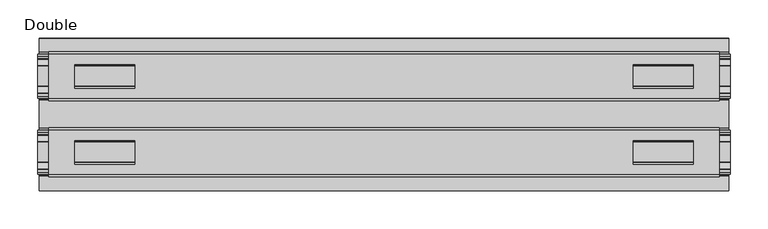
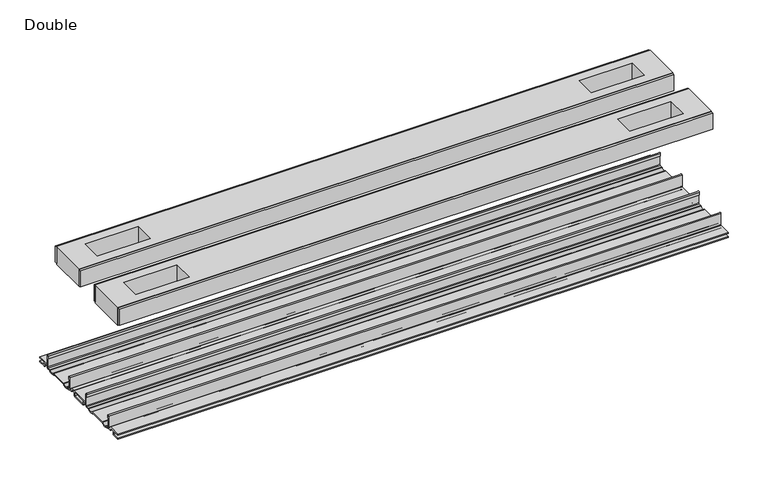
"""IFC4 building model written with IfcOpenShell, lengths in millimetres: proxy geometry, Frame-Teknion-FHCRA-Horizontal_Rail-R2022 : Double."""

from ifc_helpers import new_model, si_unit, point, frame, frame_2d, origin, place, context, project, spatial, polyline, circle_curve, trimmed, segment, composite_curve, outline, extrude, source, transform, mapped, element, save


def double_75f63c43(model_context):
    return source(origin(), model_context, "Body", "SweptSolid", [
        extrude(outline(composite_curve([segment(polyline([(-78.8225461, -7.7516037), (-78.8225461, 9.8607558)]), True, "CONTINUOUS"), segment(trimmed(circle_curve(frame_2d((-77.6033482, 9.8607558)), 1.2191979), [point((-78.8225461, 9.8607558))], [point((-76.3841503, 9.8607558))], False, "CARTESIAN"), True, "CONTINUOUS"), segment(polyline([(-76.3841503, 9.8607558), (-76.3841503, 5.9999563), (-77.6643269, 5.9999563), (-77.6643269, -7.7516037)]), True, "CONTINUOUS"), segment(trimmed(circle_curve(frame_2d((-76.6483061, -7.7516037)), 1.0160208), [point((-77.6643269, -7.7516037))], [point((-76.6548232, -8.7676036))], True, "CARTESIAN"), True, "CONTINUOUS"), segment(polyline([(-76.6548232, -8.7676036), (-72.7118726, -8.7676036), (-71.7985108, -8.968753)]), True, "CONTINUOUS"), segment(trimmed(circle_curve(frame_2d((-67.7735521, -6.1259382)), 4.9276657), [point((-71.7985108, -8.968753))], [point((-63.7485934, -8.968753))], True, "CARTESIAN"), True, "CONTINUOUS"), segment(polyline([(-63.7485934, -8.968753), (-62.8352226, -8.7676036), (-36.7962778, -8.7676036), (-35.8829069, -8.968753)]), True, "CONTINUOUS"), segment(trimmed(circle_curve(frame_2d((-31.8579482, -6.1259382)), 4.9276657), [point((-35.8829069, -8.968753))], [point((-27.8329895, -8.968753))], True, "CARTESIAN"), True, "CONTINUOUS"), segment(polyline([(-27.8329895, -8.968753), (-26.9196277, -8.7676036), (-22.9766772, -8.7676036)]), True, "CONTINUOUS"), segment(trimmed(circle_curve(frame_2d((-22.9831943, -7.7516037)), 1.0160208), [point((-22.9766772, -8.7676036))], [point((-21.9671735, -7.7516037))], True, "CARTESIAN"), True, "CONTINUOUS"), segment(polyline([(-21.9671735, -7.7516037), (-21.9671735, 5.9999563), (-23.2473501, 5.9999563), (-23.2473501, 9.8607558)]), True, "CONTINUOUS"), segment(trimmed(circle_curve(frame_2d((-22.0281522, 9.8607558)), 1.2191979), [point((-23.2473501, 9.8607558))], [point((-20.8089542, 9.8607558))], False, "CARTESIAN"), True, "CONTINUOUS"), segment(polyline([(-20.8089542, 9.8607558), (-20.8089542, -7.7516037)]), True, "CONTINUOUS"), segment(trimmed(circle_curve(frame_2d((-22.9831943, -7.7516037)), 2.17424), [point((-20.8089542, -7.7516037))], [point((-22.9831943, -9.9258438))], False, "CARTESIAN"), True, "CONTINUOUS"), segment(polyline([(-22.9831943, -9.9258438), (-27.274181, -9.9258438)]), True, "CONTINUOUS"), segment(trimmed(circle_curve(frame_2d((-31.8545955, -6.4800016)), 5.7318431), [point((-27.274181, -9.9258438))], [point((-36.43501, -9.9258438))], False, "CARTESIAN"), True, "CONTINUOUS"), segment(polyline([(-36.43501, -9.9258438), (-63.1964904, -9.9258438)]), True, "CONTINUOUS"), segment(trimmed(circle_curve(frame_2d((-67.7769049, -6.4800016)), 5.7318431), [point((-63.1964904, -9.9258438))], [point((-72.3573194, -9.9258438))], False, "CARTESIAN"), True, "CONTINUOUS"), segment(polyline([(-72.3573194, -9.9258438), (-76.6483061, -9.9258438)]), True, "CONTINUOUS"), segment(trimmed(circle_curve(frame_2d((-76.6483061, -7.7516037)), 2.17424), [point((-76.6483061, -9.9258438))], [point((-78.8225461, -7.7516037))], False, "CARTESIAN"), True, "CONTINUOUS")], self_intersect=False)), frame((-455.3204, 0.0, 0.0), z_axis=(1.0, 0.0, 0.0), x_axis=(0.0, 1.0, 0.0)), (0.0, 0.0, 1.0), 910.6408),
        extrude(outline(composite_curve([segment(trimmed(circle_curve(frame_2d((77.0293057, -7.7516037)), 2.17424), [point((79.2035458, -7.7516037))], [point((77.0293057, -9.9258438))], False, "CARTESIAN"), True, "CONTINUOUS"), segment(polyline([(77.0293057, -9.9258438), (72.738319, -9.9258438)]), True, "CONTINUOUS"), segment(trimmed(circle_curve(frame_2d((68.1579045, -6.4800016)), 5.7318431), [point((72.738319, -9.9258438))], [point((63.57749, -9.9258438))], False, "CARTESIAN"), True, "CONTINUOUS"), segment(polyline([(63.57749, -9.9258438), (36.8160096, -9.9258438)]), True, "CONTINUOUS"), segment(trimmed(circle_curve(frame_2d((32.2355951, -6.4800016)), 5.7318431), [point((36.8160096, -9.9258438))], [point((27.6551806, -9.9258438))], False, "CARTESIAN"), True, "CONTINUOUS"), segment(polyline([(27.6551806, -9.9258438), (23.3641939, -9.9258438)]), True, "CONTINUOUS"), segment(trimmed(circle_curve(frame_2d((23.3641939, -7.7516037)), 2.17424), [point((23.3641939, -9.9258438))], [point((21.1899539, -7.7516037))], False, "CARTESIAN"), True, "CONTINUOUS"), segment(polyline([(21.1899539, -7.7516037), (21.1899539, 9.8607558)]), True, "CONTINUOUS"), segment(trimmed(circle_curve(frame_2d((22.4091518, 9.8607558)), 1.2191979), [point((21.1899539, 9.8607558))], [point((23.6283497, 9.8607558))], False, "CARTESIAN"), True, "CONTINUOUS"), segment(polyline([(23.6283497, 9.8607558), (23.6283497, 5.9999563), (22.3481731, 5.9999563), (22.3481731, -7.7516037)]), True, "CONTINUOUS"), segment(trimmed(circle_curve(frame_2d((23.3641939, -7.7516037)), 1.0160208), [point((22.3481731, -7.7516037))], [point((23.3576768, -8.7676036))], True, "CARTESIAN"), True, "CONTINUOUS"), segment(polyline([(23.3576768, -8.7676036), (27.3006274, -8.7676036), (28.2139892, -8.968753)]), True, "CONTINUOUS"), segment(trimmed(circle_curve(frame_2d((32.2389479, -6.1259382)), 4.9276657), [point((28.2139892, -8.968753))], [point((36.2639066, -8.968753))], True, "CARTESIAN"), True, "CONTINUOUS"), segment(polyline([(36.2639066, -8.968753), (37.1772774, -8.7676036), (63.2162222, -8.7676036), (64.1295931, -8.968753)]), True, "CONTINUOUS"), segment(trimmed(circle_curve(frame_2d((68.1545518, -6.1259382)), 4.9276657), [point((64.1295931, -8.968753))], [point((72.1795105, -8.968753))], True, "CARTESIAN"), True, "CONTINUOUS"), segment(polyline([(72.1795105, -8.968753), (73.0928723, -8.7676036), (77.0358228, -8.7676036)]), True, "CONTINUOUS"), segment(trimmed(circle_curve(frame_2d((77.0293057, -7.7516037)), 1.0160208), [point((77.0358228, -8.7676036))], [point((78.0453265, -7.7516037))], True, "CARTESIAN"), True, "CONTINUOUS"), segment(polyline([(78.0453265, -7.7516037), (78.0453265, 5.9999563), (76.7651499, 5.9999563), (76.7651499, 9.8607558)]), True, "CONTINUOUS"), segment(trimmed(circle_curve(frame_2d((77.9843478, 9.8607558)), 1.2191979), [point((76.7651499, 9.8607558))], [point((79.2035458, 9.8607558))], False, "CARTESIAN"), True, "CONTINUOUS"), segment(polyline([(79.2035458, 9.8607558), (79.2035458, -7.7516037)]), True, "CONTINUOUS")], self_intersect=False)), frame((-455.3204, 0.0, 0.0), z_axis=(1.0, 0.0, 0.0), x_axis=(0.0, 1.0, 0.0)), (0.0, 0.0, 1.0), 910.6408),
        extrude(outline(polyline([(441.2615091, -78.8225461), (441.2615091, -81.9975522), (-441.2615091, -81.9975522), (-441.2615091, -78.8225461), (441.2615091, -78.8225461)])), frame((0.0, 0.0, 149.8401622), z_axis=(0.0, 0.0, 1.0), x_axis=(1.0, 0.0, 0.0)), (0.0, 0.0, 1.0), 25.3999939),
        extrude(outline(polyline([(441.2615091, -17.6339482), (441.2615091, -20.8089542), (-441.2615091, -20.8089542), (-441.2615091, -17.6339482), (441.2615091, -17.6339482)])), frame((0.0, 0.0, 149.8401622), z_axis=(0.0, 0.0, 1.0), x_axis=(1.0, 0.0, 0.0)), (0.0, 0.0, 1.0), 25.3999939),
        extrude(outline(polyline([(441.2615091, 21.1899493), (441.2615091, 18.0149501), (-441.2615091, 18.0149501), (-441.2615091, 21.1899493), (441.2615091, 21.1899493)])), frame((0.0, 0.0, 149.8401622), z_axis=(0.0, 0.0, 1.0), x_axis=(1.0, 0.0, 0.0)), (0.0, 0.0, 1.0), 25.3999939),
        extrude(outline(polyline([(441.2615091, 82.3785496), (441.2615091, 79.2035503), (-441.2615091, 79.2035503), (-441.2615091, 82.3785496), (441.2615091, 82.3785496)])), frame((0.0, 0.0, 149.8401622), z_axis=(0.0, 0.0, 1.0), x_axis=(1.0, 0.0, 0.0)), (0.0, 0.0, 1.0), 25.3999939),
        extrude(outline(polyline([(441.2615091, 79.2035503), (441.2615091, 21.1899493), (-441.2615091, 21.1899493), (-441.2615091, 79.2035503), (441.2615091, 79.2035503)]), holes=[polyline([(406.8444965, 65.3097536), (327.7996847, 65.3097536), (327.7996847, 34.3217468), (406.8444965, 34.3217468), (406.8444965, 65.3097536)]), polyline([(-406.8444965, 65.3097536), (-406.8444965, 34.3217468), (-327.7996847, 34.3217468), (-327.7996847, 65.3097536), (-406.8444965, 65.3097536)])]), frame((0.0, 0.0, 148.4185847), z_axis=(0.0, 0.0, 1.0), x_axis=(1.0, 0.0, 0.0)), (0.0, 0.0, 1.0), 27.9999988),
        extrude(outline(polyline([(441.2615091, -78.8225461), (-441.2615091, -78.8225461), (-441.2615091, -20.8224524), (441.2615091, -20.8224524), (441.2615091, -78.8225461)]), holes=[polyline([(406.8444965, -65.3097536), (406.8444965, -34.3217468), (327.7996847, -34.3217468), (327.7996847, -65.3097536), (406.8444965, -65.3097536)]), polyline([(-406.8444965, -65.3097536), (-327.7996847, -65.3097536), (-327.7996847, -34.3217468), (-406.8444965, -34.3217468), (-406.8444965, -65.3097536)])]), frame((0.0, 0.0, 148.4185847), z_axis=(0.0, 0.0, 1.0), x_axis=(1.0, 0.0, 0.0)), (0.0, 0.0, 1.0), 27.9999988),
        extrude(outline(composite_curve([segment(polyline([(-100.2730922, -13.9898438), (-100.2302711, -12.3388438), (-89.7890007, -12.3388438), (-89.7890007, -7.766844), (-100.2302711, -7.766844), (-100.2730922, -6.1158439), (-81.1847475, -6.1158439)]), True, "CONTINUOUS"), segment(trimmed(circle_curve(frame_2d((-81.1847475, -7.6398436)), 1.5239997), [point((-81.1847475, -6.1158439))], [point((-79.6607478, -7.6398436))], False, "CARTESIAN"), True, "CONTINUOUS"), segment(polyline([(-79.6607478, -7.6398436), (-79.6607478, -9.9258438), (-73.1120844, -9.9258438)]), True, "CONTINUOUS"), segment(trimmed(circle_curve(frame_2d((-67.7735521, -5.2268471)), 7.1119966), [point((-73.1120844, -9.9258438))], [point((-62.4350199, -9.9258438))], True, "CARTESIAN"), True, "CONTINUOUS"), segment(polyline([(-62.4350199, -9.9258438), (-37.1964805, -9.9258438)]), True, "CONTINUOUS"), segment(trimmed(circle_curve(frame_2d((-31.8579482, -5.2268471)), 7.1119966), [point((-37.1964805, -9.9258438))], [point((-26.519416, -9.9258438))], True, "CARTESIAN"), True, "CONTINUOUS"), segment(polyline([(-26.519416, -9.9258438), (-19.9707525, -9.9258438), (-19.9707525, -7.7656583)]), True, "CONTINUOUS"), segment(trimmed(circle_curve(frame_2d((-18.3197518, -7.7656583)), 1.6510007), [point((-19.9707525, -7.7656583))], [point((-18.3823282, -6.1158439))], False, "CARTESIAN"), True, "CONTINUOUS"), segment(polyline([(-18.3823282, -6.1158439), (18.7633278, -6.1158439)]), True, "CONTINUOUS"), segment(trimmed(circle_curve(frame_2d((18.7007515, -7.7656583)), 1.6510007), [point((18.7633278, -6.1158439))], [point((20.3517522, -7.7656583))], False, "CARTESIAN"), True, "CONTINUOUS"), segment(polyline([(20.3517522, -7.7656583), (20.3517522, -9.9258438), (26.9004156, -9.9258438)]), True, "CONTINUOUS"), segment(trimmed(circle_curve(frame_2d((32.2389479, -5.2268471)), 7.1119966), [point((26.9004156, -9.9258438))], [point((37.5774801, -9.9258438))], True, "CARTESIAN"), True, "CONTINUOUS"), segment(polyline([(37.5774801, -9.9258438), (62.8160195, -9.9258438)]), True, "CONTINUOUS"), segment(trimmed(circle_curve(frame_2d((68.1545518, -5.2268471)), 7.1119966), [point((62.8160195, -9.9258438))], [point((73.493084, -9.9258438))], True, "CARTESIAN"), True, "CONTINUOUS"), segment(polyline([(73.493084, -9.9258438), (80.0417475, -9.9258438), (80.0417475, -7.7656583)]), True, "CONTINUOUS"), segment(trimmed(circle_curve(frame_2d((81.6927482, -7.7656583)), 1.6510007), [point((80.0417475, -7.7656583))], [point((81.6301718, -6.1158439))], False, "CARTESIAN"), True, "CONTINUOUS"), segment(polyline([(81.6301718, -6.1158439), (100.6540918, -6.1158439), (100.6112708, -7.766844), (90.1700003, -7.766844), (90.1700003, -12.3388438), (100.6112708, -12.3388438), (100.6540918, -13.9898438), (90.0430018, -13.9898438)]), True, "CONTINUOUS"), segment(trimmed(circle_curve(frame_2d((90.0430018, -12.4658438)), 1.524), [point((90.0430018, -13.9898438))], [point((88.5190019, -12.4658438))], False, "CARTESIAN"), True, "CONTINUOUS"), segment(polyline([(88.5190019, -12.4658438), (88.5190019, -7.766844), (81.692747, -7.766844), (81.692747, -10.0528438)]), True, "CONTINUOUS"), segment(trimmed(circle_curve(frame_2d((80.1687471, -10.0528438)), 1.524), [point((81.692747, -10.0528438))], [point((80.1687471, -11.5768438))], False, "CARTESIAN"), True, "CONTINUOUS"), segment(polyline([(80.1687471, -11.5768438), (73.6626049, -11.5768438)]), True, "CONTINUOUS"), segment(trimmed(circle_curve(frame_2d((68.1545518, -6.4968436)), 7.4930002), [point((73.6626049, -11.5768438))], [point((62.8967468, -11.8354331))], False, "CARTESIAN"), True, "CONTINUOUS"), segment(polyline([(62.8967468, -11.8354331), (37.4967528, -11.8354331)]), True, "CONTINUOUS"), segment(trimmed(circle_curve(frame_2d((32.2389479, -6.4968436)), 7.4930002), [point((37.4967528, -11.8354331))], [point((26.7308947, -11.5768438))], False, "CARTESIAN"), True, "CONTINUOUS"), segment(polyline([(26.7308947, -11.5768438), (20.2247526, -11.5768438)]), True, "CONTINUOUS"), segment(trimmed(circle_curve(frame_2d((20.2247526, -10.0528438)), 1.524), [point((20.2247526, -11.5768438))], [point((18.7007526, -10.0528438))], False, "CARTESIAN"), True, "CONTINUOUS"), segment(polyline([(18.7007526, -10.0528438), (18.7007526, -7.766844), (11.8744978, -7.766844), (11.8744978, -12.4658438)]), True, "CONTINUOUS"), segment(trimmed(circle_curve(frame_2d((10.3504978, -12.4658438)), 1.524), [point((11.8744978, -12.4658438))], [point((10.3504978, -13.9898438))], False, "CARTESIAN"), True, "CONTINUOUS"), segment(polyline([(10.3504978, -13.9898438), (-9.9694982, -13.9898438)]), True, "CONTINUOUS"), segment(trimmed(circle_curve(frame_2d((-9.9694982, -12.4658438)), 1.524), [point((-9.9694982, -13.9898438))], [point((-11.4934981, -12.4658438))], False, "CARTESIAN"), True, "CONTINUOUS"), segment(polyline([(-11.4934981, -12.4658438), (-11.4934981, -7.766844), (-18.319753, -7.766844), (-18.319753, -10.0528438)]), True, "CONTINUOUS"), segment(trimmed(circle_curve(frame_2d((-19.8437529, -10.0528438)), 1.524), [point((-18.319753, -10.0528438))], [point((-19.8437529, -11.5768438))], False, "CARTESIAN"), True, "CONTINUOUS"), segment(polyline([(-19.8437529, -11.5768438), (-26.3498951, -11.5768438)]), True, "CONTINUOUS"), segment(trimmed(circle_curve(frame_2d((-31.8579482, -6.4968436)), 7.4930002), [point((-26.3498951, -11.5768438))], [point((-37.1157532, -11.8354331))], False, "CARTESIAN"), True, "CONTINUOUS"), segment(polyline([(-37.1157532, -11.8354331), (-62.5157472, -11.8354331)]), True, "CONTINUOUS"), segment(trimmed(circle_curve(frame_2d((-67.7735521, -6.4968436)), 7.4930002), [point((-62.5157472, -11.8354331))], [point((-73.2816053, -11.5768438))], False, "CARTESIAN"), True, "CONTINUOUS"), segment(polyline([(-73.2816053, -11.5768438), (-79.7877474, -11.5768438)]), True, "CONTINUOUS"), segment(trimmed(circle_curve(frame_2d((-79.7877474, -10.0528438)), 1.524), [point((-79.7877474, -11.5768438))], [point((-81.3117474, -10.0528438))], False, "CARTESIAN"), True, "CONTINUOUS"), segment(polyline([(-81.3117474, -10.0528438), (-81.3117474, -7.766844), (-88.1380022, -7.766844), (-88.1380022, -12.4658438)]), True, "CONTINUOUS"), segment(trimmed(circle_curve(frame_2d((-89.6620022, -12.4658438)), 1.524), [point((-88.1380022, -12.4658438))], [point((-89.6620022, -13.9898438))], False, "CARTESIAN"), True, "CONTINUOUS"), segment(polyline([(-89.6620022, -13.9898438), (-100.2730922, -13.9898438)]), True, "CONTINUOUS")], self_intersect=False), holes=[polyline([(-9.8424997, -12.3388438), (10.2234993, -12.3388438), (10.2234993, -7.766844), (-9.8424997, -7.766844), (-9.8424997, -12.3388438)])]), frame((-453.6694, 0.0, 0.0), z_axis=(1.0, 0.0, 0.0), x_axis=(0.0, 1.0, 0.0)), (0.0, 0.0, 1.0), 907.3388),
    ])


if __name__ == "__main__":
    model = new_model("IFC4")
    model_context = context("Model", 3, world=origin())
    ifc_project = project(units=[si_unit("LENGTHUNIT", "METRE", prefix="MILLI")], contexts=[model_context])
    site = spatial("IfcSite", under=ifc_project)
    building = spatial("IfcBuilding", under=site)
    placement = place(None, origin())
    double_shape = double_75f63c43(model_context)
    element("IfcBuildingElementProxy", 1, Name="Frame-Teknion-FHCRA-Horizontal_Rail-R2022 : Double", ObjectType="Frame-Teknion-FHCRA-Horizontal_Rail-R2022 : Double", at=placement, inside=building, context=model_context, shape_type="MappedRepresentation", body=[
        mapped(double_shape, transform((0.0, 0.0, 0.0), x_axis=(1.0, 0.0, 0.0), y_axis=(0.0, 1.0, 0.0), z_axis=(0.0, 0.0, 1.0))),
    ])
    save(model, "model.ifc")
